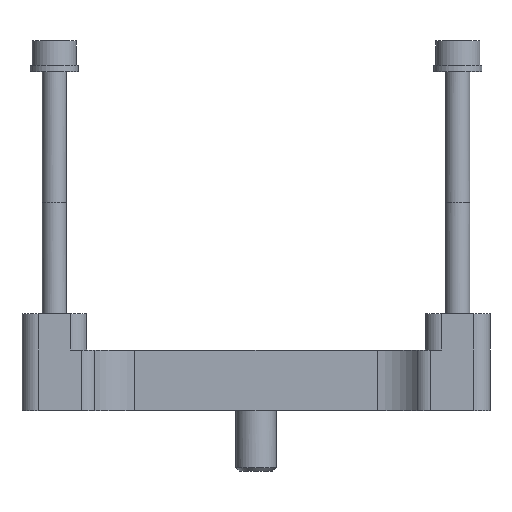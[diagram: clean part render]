
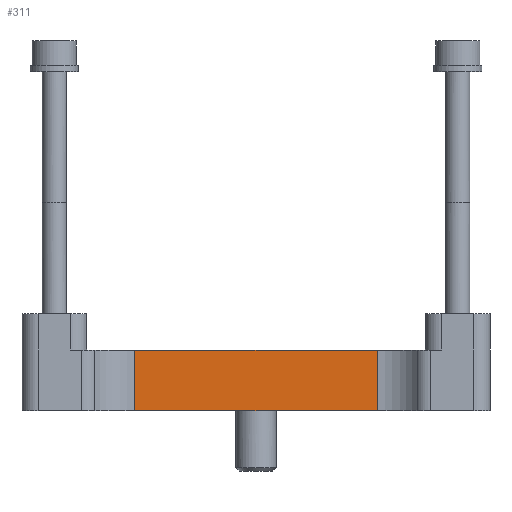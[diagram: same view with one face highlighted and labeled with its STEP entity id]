
A CAD part, front view. The second image highlights one B-rep face of the part: STEP entity #311.
In plain terms, the highlighted planar face has unit normal (0, -1, 0).
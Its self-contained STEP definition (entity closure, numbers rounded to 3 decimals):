
#311 = ADVANCED_FACE( '', ( #750 ), #751, .F. );
#750 = FACE_OUTER_BOUND( '', #1459, .T. );
#751 = PLANE( '', #1460 );
#1459 = EDGE_LOOP( '', ( #2164, #2165, #2166, #2167 ) );
#1460 = AXIS2_PLACEMENT_3D( '', #2168, #2169, #2170 );
#2164 = ORIENTED_EDGE( '', *, *, #3548, .T. );
#2165 = ORIENTED_EDGE( '', *, *, #3578, .F. );
#2166 = ORIENTED_EDGE( '', *, *, #3579, .F. );
#2167 = ORIENTED_EDGE( '', *, *, #3580, .T. );
#2168 = CARTESIAN_POINT( '', ( -15., -45., 7.5 ) );
#2169 = DIRECTION( '', ( 0., 1., 0. ) );
#2170 = DIRECTION( '', ( -1., 0., 0. ) );
#3548 = EDGE_CURVE( '', #4080, #4112, #4114, .T. );
#3578 = EDGE_CURVE( '', #4166, #4112, #4167, .T. );
#3579 = EDGE_CURVE( '', #4168, #4166, #4169, .T. );
#3580 = EDGE_CURVE( '', #4168, #4080, #4170, .T. );
#4080 = VERTEX_POINT( '', #4880 );
#4112 = VERTEX_POINT( '', #4918 );
#4114 = LINE( '', #4920, #4921 );
#4166 = VERTEX_POINT( '', #4989 );
#4167 = LINE( '', #4990, #4991 );
#4168 = VERTEX_POINT( '', #4992 );
#4169 = LINE( '', #4993, #4994 );
#4170 = LINE( '', #4995, #4996 );
#4880 = CARTESIAN_POINT( '', ( -15., -45., 0. ) );
#4918 = CARTESIAN_POINT( '', ( 15., -45., 0. ) );
#4920 = CARTESIAN_POINT( '', ( -15., -45., 0. ) );
#4921 = VECTOR( '', #6102, 1000. );
#4989 = CARTESIAN_POINT( '', ( 15., -45., 7.5 ) );
#4990 = CARTESIAN_POINT( '', ( 15., -45., 7.5 ) );
#4991 = VECTOR( '', #6137, 1000. );
#4992 = CARTESIAN_POINT( '', ( -15., -45., 7.5 ) );
#4993 = CARTESIAN_POINT( '', ( -15., -45., 7.5 ) );
#4994 = VECTOR( '', #6138, 1000. );
#4995 = CARTESIAN_POINT( '', ( -15., -45., 7.5 ) );
#4996 = VECTOR( '', #6139, 1000. );
#6102 = DIRECTION( '', ( 1., 0., 0. ) );
#6137 = DIRECTION( '', ( 0., 0., -1. ) );
#6138 = DIRECTION( '', ( 1., 0., 0. ) );
#6139 = DIRECTION( '', ( 0., 0., -1. ) );
